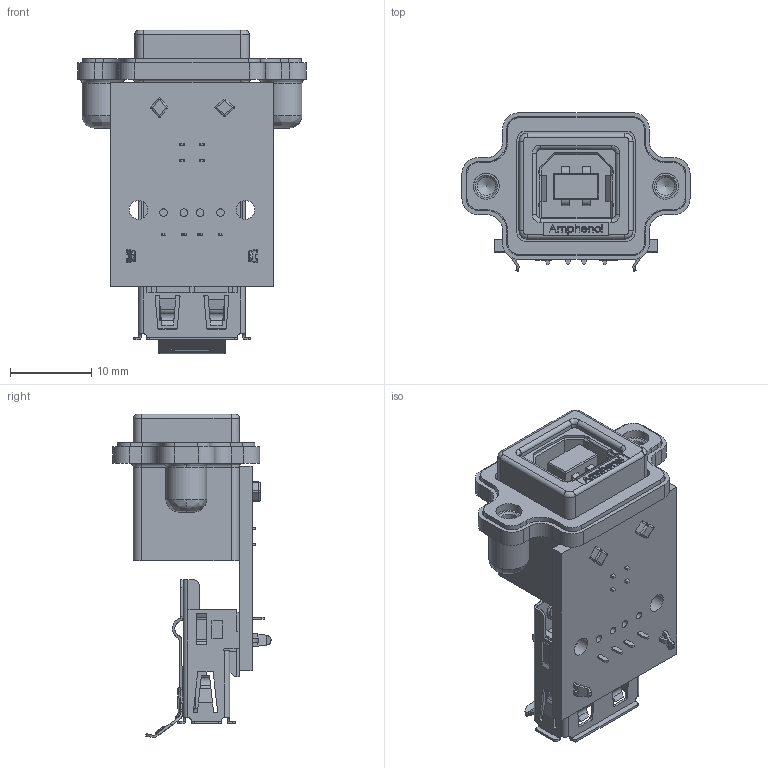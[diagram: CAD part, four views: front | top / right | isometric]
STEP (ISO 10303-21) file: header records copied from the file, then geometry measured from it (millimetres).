
FILE_DESCRIPTION (( 'STEP AP214' ), '1' );
FILE_NAME ('M-MUSB-D311-303-REVT1.STEP', '2014-09-16T13:08:44', ( '' ), ( '' ), 'SwSTEP 2.0', 'SolidWorks 2014', '' );
FILE_SCHEMA (( 'AUTOMOTIVE_DESIGN' ));
Length unit declared in the file: inch
Products named in the file (1): M-MUSB-D311-303-REVT1
Bounding box: 28 x 19.4 x 39.7 mm (x, y, z)
Volume: 4847.3 mm3; surface area: 5847.6 mm2
Topology: 1 solids, 1 shells, 1557 faces, 4292 edges, 2810 vertices
Faces by surface type: plane 957, cylinder 325, bspline 267, cone 8
Full cylindrical faces by diameter (mm): 0.92 x4, 2.04 x2, 2.261 x2, 2.3 x2, 2.54 x2, 2.6 x2, 2.68 x2, 3.2 x2, 5 x2
Entity records: 63715 total; most frequent: CARTESIAN_POINT 27100, ORIENTED_EDGE 8512, DIRECTION 5982, EDGE_CURVE 4256, LINE 2838, VECTOR 2838, VERTEX_POINT 2806, EDGE_LOOP 1732
